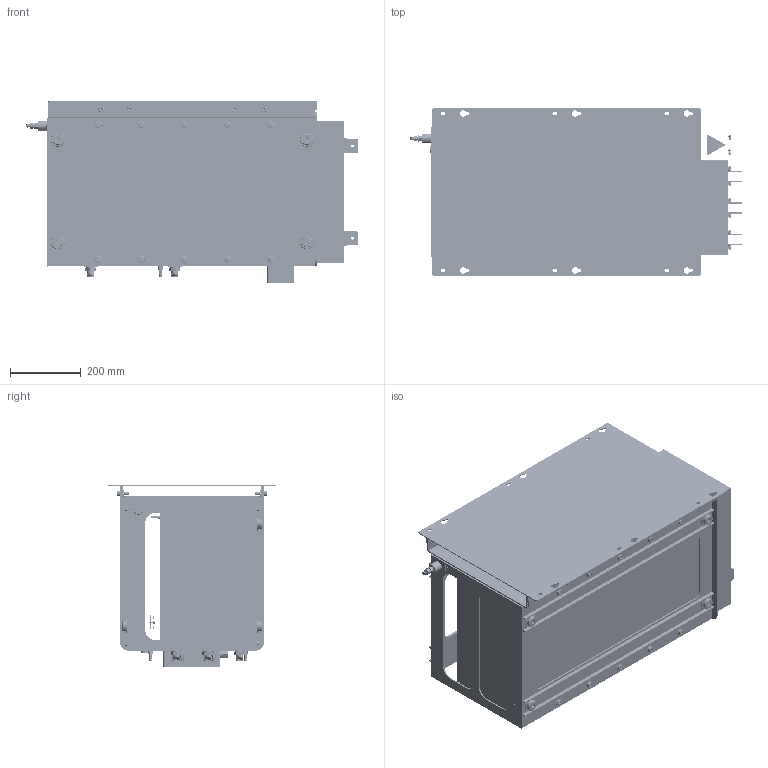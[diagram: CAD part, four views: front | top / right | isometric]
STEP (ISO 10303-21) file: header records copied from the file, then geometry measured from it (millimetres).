
FILE_DESCRIPTION (( 'STEP AP203' ), '1' );
FILE_NAME ('倳昃-4 IP21.STEP', '2024-04-06T19:48:45', ( '' ), ( '' ), 'SwSTEP 2.0', 'SolidWorks 2020', '' );
FILE_SCHEMA (( 'CONFIG_CONTROL_DESIGN' ));
Products named in the file (1): 倳昃-4 IP21
Bounding box: 935.35 x 474 x 511.5 mm (x, y, z)
Volume: 93097805.8 mm3; surface area: 6323177.1 mm2
Topology: 231 solids, 342 shells, 14151 faces, 34959 edges, 22104 vertices
Faces by surface type: cylinder 6308, plane 5457, torus 938, cone 850, bspline 558, sphere 40
Entity records: 823886 total; most frequent: CARTESIAN_POINT 456597, ORIENTED_EDGE 80408, DIRECTION 73566, EDGE_CURVE 40204, AXIS2_PLACEMENT_3D 27148, VERTEX_POINT 25685, LINE 19270, VECTOR 19270
